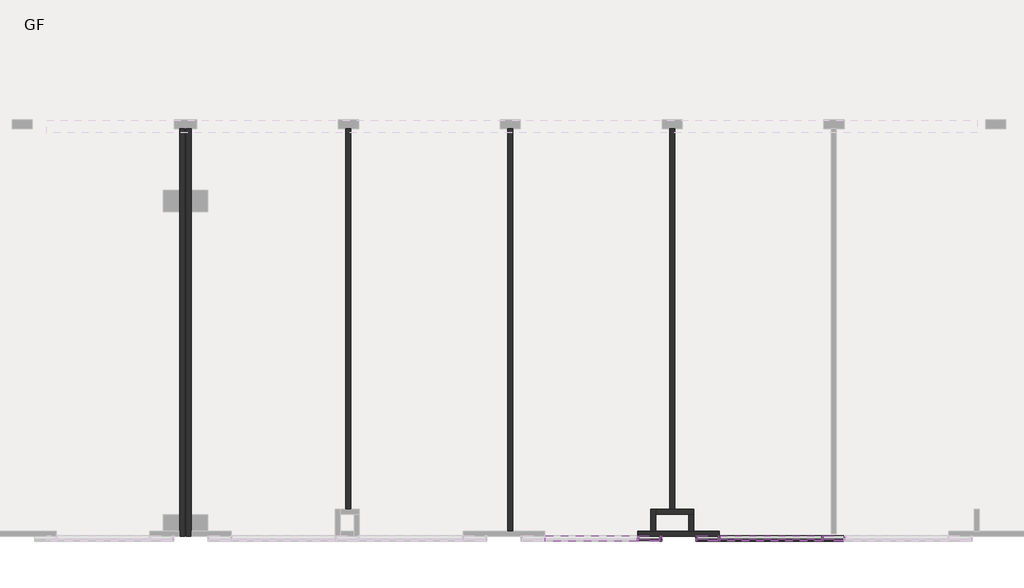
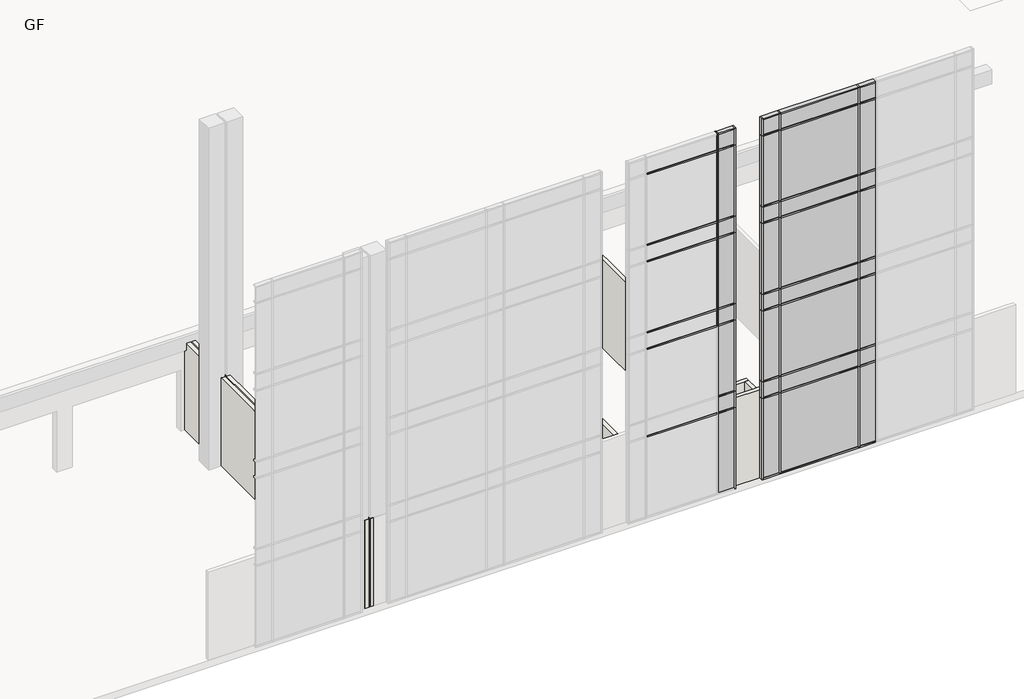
# One storey, part 9 of 23: 78 members, 32 plates, 9 walls.
"""IFC4 building model written with IfcOpenShell, lengths in millimetres."""

from ifc_helpers import new_model, si_unit, frame, origin, place, context, project, spatial, polyline, outline, extrude, faceted_brep, transform, mapped, element, save
from components import rectangular_mullion_50_x_150mm_64d38db8, rectangular_mullion_50_x_150mm_68b3818a, rectangular_mullion_50_x_150mm_f245f1eb, rectangular_mullion_50_x_150mm_5fdcfccd, rectangular_mullion_50_x_150mm_d11e3bb4, rectangular_mullion_50_x_150mm_7d543e93, rectangular_mullion_50_x_150mm_9e0f1e24, rectangular_mullion_50_x_150mm_a95743fc, rectangular_mullion_50_x_150mm_dbb82e9e, rectangular_mullion_50_x_150mm_32aaa733, rectangular_mullion_50_x_150mm_9b8962c0, rectangular_mullion_50_x_150mm_7dcb5a67, rectangular_mullion_50_x_150mm_f1d86669, system_panel_glazed_f9f902e6, system_panel_glazed_6ff5b55b, system_panel_glazed_93ed122c, system_panel_glazed_66c44f38, system_panel_glazed_399b1310, system_panel_glazed_5ec2e07d

model = new_model("IFC4")

# Units and contexts
model_context = context("Model", 3, world=origin())
ifc_project = project(units=[si_unit("LENGTHUNIT", "METRE", prefix="MILLI")], contexts=[model_context])

# Site, building, storey
site = spatial("IfcSite", under=ifc_project)
building = spatial("IfcBuilding", under=site)
storey = spatial("IfcBuildingStorey", under=building, Name="GF", Elevation=900.0)

# Members
placement = place(None, origin())
rectangular_mullion_50_x_150mm_shape = rectangular_mullion_50_x_150mm_64d38db8(model_context)
element("IfcMember", 1, ObjectType="Rectangular Mullion : 50 x 150mm", at=placement, inside=storey, context=model_context, shape_type="MappedRepresentation", body=[
    mapped(rectangular_mullion_50_x_150mm_shape, transform((14592.4134101, -25897.6148653, 15125.0), x_axis=(0.0, 0.0, 1.0), y_axis=(0.0, -1.0, 0.0), z_axis=(1.0, 0.0, 0.0))),
])
element("IfcMember", 2, ObjectType="Rectangular Mullion : 50 x 150mm", at=placement, inside=storey, context=model_context, shape_type="MappedRepresentation", body=[
    mapped(rectangular_mullion_50_x_150mm_shape, transform((16262.4134101, -25897.6148653, 15125.0), x_axis=(0.0, 0.0, 1.0), y_axis=(0.0, -1.0, 0.0), z_axis=(1.0, 0.0, 0.0))),
])
element("IfcMember", 3, ObjectType="Rectangular Mullion : 50 x 150mm", at=placement, inside=storey, context=model_context, shape_type="MappedRepresentation", body=[
    mapped(rectangular_mullion_50_x_150mm_shape, transform((19857.4134101, -25897.6148653, 15125.0), x_axis=(0.0, 0.0, 1.0), y_axis=(0.0, -1.0, 0.0), z_axis=(1.0, 0.0, 0.0))),
])
element("IfcMember", 4, ObjectType="Rectangular Mullion : 50 x 150mm", at=placement, inside=storey, context=model_context, shape_type="MappedRepresentation", body=[
    mapped(rectangular_mullion_50_x_150mm_shape, transform((15662.4134101, -25897.6148653, 900.0), x_axis=(0.0, 0.0, -1.0), y_axis=(0.0, -1.0, 0.0), z_axis=(-1.0, 0.0, 0.0))),
])
element("IfcMember", 5, ObjectType="Rectangular Mullion : 50 x 150mm", at=placement, inside=storey, context=model_context, shape_type="MappedRepresentation", body=[
    mapped(rectangular_mullion_50_x_150mm_shape, transform((19257.4134101, -25897.6148653, 900.0), x_axis=(0.0, 0.0, -1.0), y_axis=(0.0, -1.0, 0.0), z_axis=(-1.0, 0.0, 0.0))),
])
rectangular_mullion_50_x_150mm_2_shape = rectangular_mullion_50_x_150mm_68b3818a(model_context)
element("IfcMember", 6, ObjectType="Rectangular Mullion : 50 x 150mm", at=placement, inside=storey, context=model_context, shape_type="MappedRepresentation", body=[
    mapped(rectangular_mullion_50_x_150mm_2_shape, transform((14592.4134101, -25897.6148653, 4750.0), x_axis=(0.0, 0.0, 1.0), y_axis=(0.0, -1.0, 0.0), z_axis=(1.0, 0.0, 0.0))),
])
element("IfcMember", 7, ObjectType="Rectangular Mullion : 50 x 150mm", at=placement, inside=storey, context=model_context, shape_type="MappedRepresentation", body=[
    mapped(rectangular_mullion_50_x_150mm_2_shape, transform((14592.4134101, -25897.6148653, 4100.0), x_axis=(0.0, 0.0, 1.0), y_axis=(0.0, -1.0, 0.0), z_axis=(1.0, 0.0, 0.0))),
])
element("IfcMember", 8, ObjectType="Rectangular Mullion : 50 x 150mm", at=placement, inside=storey, context=model_context, shape_type="MappedRepresentation", body=[
    mapped(rectangular_mullion_50_x_150mm_2_shape, transform((14592.4134101, -25897.6148653, 8200.0), x_axis=(0.0, 0.0, 1.0), y_axis=(0.0, -1.0, 0.0), z_axis=(1.0, 0.0, 0.0))),
])
element("IfcMember", 9, ObjectType="Rectangular Mullion : 50 x 150mm", at=placement, inside=storey, context=model_context, shape_type="MappedRepresentation", body=[
    mapped(rectangular_mullion_50_x_150mm_2_shape, transform((14592.4134101, -25897.6148653, 11650.0), x_axis=(0.0, 0.0, 1.0), y_axis=(0.0, -1.0, 0.0), z_axis=(1.0, 0.0, 0.0))),
])
element("IfcMember", 10, ObjectType="Rectangular Mullion : 50 x 150mm", at=placement, inside=storey, context=model_context, shape_type="MappedRepresentation", body=[
    mapped(rectangular_mullion_50_x_150mm_2_shape, transform((14592.4134101, -25897.6148653, 7550.0), x_axis=(0.0, 0.0, 1.0), y_axis=(0.0, -1.0, 0.0), z_axis=(1.0, 0.0, 0.0))),
])
element("IfcMember", 11, ObjectType="Rectangular Mullion : 50 x 150mm", at=placement, inside=storey, context=model_context, shape_type="MappedRepresentation", body=[
    mapped(rectangular_mullion_50_x_150mm_2_shape, transform((14592.4134101, -25897.6148653, 11000.0), x_axis=(0.0, 0.0, 1.0), y_axis=(0.0, -1.0, 0.0), z_axis=(1.0, 0.0, 0.0))),
])
element("IfcMember", 12, ObjectType="Rectangular Mullion : 50 x 150mm", at=placement, inside=storey, context=model_context, shape_type="MappedRepresentation", body=[
    mapped(rectangular_mullion_50_x_150mm_2_shape, transform((14592.4134101, -25897.6148653, 14450.0), x_axis=(0.0, 0.0, 1.0), y_axis=(0.0, -1.0, 0.0), z_axis=(1.0, 0.0, 0.0))),
])
element("IfcMember", 13, ObjectType="Rectangular Mullion : 50 x 150mm", at=placement, inside=storey, context=model_context, shape_type="MappedRepresentation", body=[
    mapped(rectangular_mullion_50_x_150mm_2_shape, transform((16262.4134101, -25897.6148653, 4750.0), x_axis=(0.0, 0.0, 1.0), y_axis=(0.0, -1.0, 0.0), z_axis=(1.0, 0.0, 0.0))),
])
element("IfcMember", 14, ObjectType="Rectangular Mullion : 50 x 150mm", at=placement, inside=storey, context=model_context, shape_type="MappedRepresentation", body=[
    mapped(rectangular_mullion_50_x_150mm_2_shape, transform((19857.4134101, -25897.6148653, 4750.0), x_axis=(0.0, 0.0, 1.0), y_axis=(0.0, -1.0, 0.0), z_axis=(1.0, 0.0, 0.0))),
])
element("IfcMember", 15, ObjectType="Rectangular Mullion : 50 x 150mm", at=placement, inside=storey, context=model_context, shape_type="MappedRepresentation", body=[
    mapped(rectangular_mullion_50_x_150mm_2_shape, transform((16262.4134101, -25897.6148653, 4100.0), x_axis=(0.0, 0.0, 1.0), y_axis=(0.0, -1.0, 0.0), z_axis=(1.0, 0.0, 0.0))),
])
element("IfcMember", 16, ObjectType="Rectangular Mullion : 50 x 150mm", at=placement, inside=storey, context=model_context, shape_type="MappedRepresentation", body=[
    mapped(rectangular_mullion_50_x_150mm_2_shape, transform((19857.4134101, -25897.6148653, 4100.0), x_axis=(0.0, 0.0, 1.0), y_axis=(0.0, -1.0, 0.0), z_axis=(1.0, 0.0, 0.0))),
])
element("IfcMember", 17, ObjectType="Rectangular Mullion : 50 x 150mm", at=placement, inside=storey, context=model_context, shape_type="MappedRepresentation", body=[
    mapped(rectangular_mullion_50_x_150mm_2_shape, transform((16262.4134101, -25897.6148653, 8200.0), x_axis=(0.0, 0.0, 1.0), y_axis=(0.0, -1.0, 0.0), z_axis=(1.0, 0.0, 0.0))),
])
element("IfcMember", 18, ObjectType="Rectangular Mullion : 50 x 150mm", at=placement, inside=storey, context=model_context, shape_type="MappedRepresentation", body=[
    mapped(rectangular_mullion_50_x_150mm_2_shape, transform((19857.4134101, -25897.6148653, 8200.0), x_axis=(0.0, 0.0, 1.0), y_axis=(0.0, -1.0, 0.0), z_axis=(1.0, 0.0, 0.0))),
])
element("IfcMember", 19, ObjectType="Rectangular Mullion : 50 x 150mm", at=placement, inside=storey, context=model_context, shape_type="MappedRepresentation", body=[
    mapped(rectangular_mullion_50_x_150mm_2_shape, transform((16262.4134101, -25897.6148653, 11650.0), x_axis=(0.0, 0.0, 1.0), y_axis=(0.0, -1.0, 0.0), z_axis=(1.0, 0.0, 0.0))),
])
element("IfcMember", 20, ObjectType="Rectangular Mullion : 50 x 150mm", at=placement, inside=storey, context=model_context, shape_type="MappedRepresentation", body=[
    mapped(rectangular_mullion_50_x_150mm_2_shape, transform((19857.4134101, -25897.6148653, 11650.0), x_axis=(0.0, 0.0, 1.0), y_axis=(0.0, -1.0, 0.0), z_axis=(1.0, 0.0, 0.0))),
])
element("IfcMember", 21, ObjectType="Rectangular Mullion : 50 x 150mm", at=placement, inside=storey, context=model_context, shape_type="MappedRepresentation", body=[
    mapped(rectangular_mullion_50_x_150mm_2_shape, transform((16262.4134101, -25897.6148653, 7550.0), x_axis=(0.0, 0.0, 1.0), y_axis=(0.0, -1.0, 0.0), z_axis=(1.0, 0.0, 0.0))),
])
element("IfcMember", 22, ObjectType="Rectangular Mullion : 50 x 150mm", at=placement, inside=storey, context=model_context, shape_type="MappedRepresentation", body=[
    mapped(rectangular_mullion_50_x_150mm_2_shape, transform((19857.4134101, -25897.6148653, 7550.0), x_axis=(0.0, 0.0, 1.0), y_axis=(0.0, -1.0, 0.0), z_axis=(1.0, 0.0, 0.0))),
])
element("IfcMember", 23, ObjectType="Rectangular Mullion : 50 x 150mm", at=placement, inside=storey, context=model_context, shape_type="MappedRepresentation", body=[
    mapped(rectangular_mullion_50_x_150mm_2_shape, transform((16262.4134101, -25897.6148653, 11000.0), x_axis=(0.0, 0.0, 1.0), y_axis=(0.0, -1.0, 0.0), z_axis=(1.0, 0.0, 0.0))),
])
element("IfcMember", 24, ObjectType="Rectangular Mullion : 50 x 150mm", at=placement, inside=storey, context=model_context, shape_type="MappedRepresentation", body=[
    mapped(rectangular_mullion_50_x_150mm_2_shape, transform((19857.4134101, -25897.6148653, 11000.0), x_axis=(0.0, 0.0, 1.0), y_axis=(0.0, -1.0, 0.0), z_axis=(1.0, 0.0, 0.0))),
])
element("IfcMember", 25, ObjectType="Rectangular Mullion : 50 x 150mm", at=placement, inside=storey, context=model_context, shape_type="MappedRepresentation", body=[
    mapped(rectangular_mullion_50_x_150mm_2_shape, transform((16262.4134101, -25897.6148653, 14450.0), x_axis=(0.0, 0.0, 1.0), y_axis=(0.0, -1.0, 0.0), z_axis=(1.0, 0.0, 0.0))),
])
element("IfcMember", 26, ObjectType="Rectangular Mullion : 50 x 150mm", at=placement, inside=storey, context=model_context, shape_type="MappedRepresentation", body=[
    mapped(rectangular_mullion_50_x_150mm_2_shape, transform((19857.4134101, -25897.6148653, 14450.0), x_axis=(0.0, 0.0, 1.0), y_axis=(0.0, -1.0, 0.0), z_axis=(1.0, 0.0, 0.0))),
])
rectangular_mullion_50_x_150mm_3_shape = rectangular_mullion_50_x_150mm_f245f1eb(model_context)
element("IfcMember", 27, ObjectType="Rectangular Mullion : 50 x 150mm", at=placement, inside=storey, context=model_context, shape_type="MappedRepresentation", body=[
    mapped(rectangular_mullion_50_x_150mm_3_shape, transform((16287.4134101, -25897.6148653, 900.0), x_axis=(1.0, 0.0, 0.0), y_axis=(0.0, -1.0, 0.0), z_axis=(0.0, 0.0, -1.0))),
])
element("IfcMember", 28, ObjectType="Rectangular Mullion : 50 x 150mm", at=placement, inside=storey, context=model_context, shape_type="MappedRepresentation", body=[
    mapped(rectangular_mullion_50_x_150mm_3_shape, transform((19232.4134101, -25897.6148653, 900.0), x_axis=(1.0, 0.0, 0.0), y_axis=(0.0, -1.0, 0.0), z_axis=(0.0, 0.0, -1.0))),
])
rectangular_mullion_50_x_150mm_4_shape = rectangular_mullion_50_x_150mm_5fdcfccd(model_context)
element("IfcMember", 29, ObjectType="Rectangular Mullion : 50 x 150mm", at=placement, inside=storey, context=model_context, shape_type="MappedRepresentation", body=[
    mapped(rectangular_mullion_50_x_150mm_4_shape, transform((13942.4134101, -25897.6148653, 4100.0), x_axis=(0.0, 0.0, 1.0), y_axis=(0.0, -1.0, 0.0), z_axis=(1.0, 0.0, 0.0))),
])
element("IfcMember", 30, ObjectType="Rectangular Mullion : 50 x 150mm", at=placement, inside=storey, context=model_context, shape_type="MappedRepresentation", body=[
    mapped(rectangular_mullion_50_x_150mm_4_shape, transform((13942.4134101, -25897.6148653, 8200.0), x_axis=(0.0, 0.0, 1.0), y_axis=(0.0, -1.0, 0.0), z_axis=(1.0, 0.0, 0.0))),
])
element("IfcMember", 31, ObjectType="Rectangular Mullion : 50 x 150mm", at=placement, inside=storey, context=model_context, shape_type="MappedRepresentation", body=[
    mapped(rectangular_mullion_50_x_150mm_4_shape, transform((13942.4134101, -25897.6148653, 11650.0), x_axis=(0.0, 0.0, 1.0), y_axis=(0.0, -1.0, 0.0), z_axis=(1.0, 0.0, 0.0))),
])
element("IfcMember", 32, ObjectType="Rectangular Mullion : 50 x 150mm", at=placement, inside=storey, context=model_context, shape_type="MappedRepresentation", body=[
    mapped(rectangular_mullion_50_x_150mm_4_shape, transform((13942.4134101, -25897.6148653, 7550.0), x_axis=(0.0, 0.0, 1.0), y_axis=(0.0, -1.0, 0.0), z_axis=(1.0, 0.0, 0.0))),
])
element("IfcMember", 33, ObjectType="Rectangular Mullion : 50 x 150mm", at=placement, inside=storey, context=model_context, shape_type="MappedRepresentation", body=[
    mapped(rectangular_mullion_50_x_150mm_4_shape, transform((13942.4134101, -25897.6148653, 11000.0), x_axis=(0.0, 0.0, 1.0), y_axis=(0.0, -1.0, 0.0), z_axis=(1.0, 0.0, 0.0))),
])
element("IfcMember", 34, ObjectType="Rectangular Mullion : 50 x 150mm", at=placement, inside=storey, context=model_context, shape_type="MappedRepresentation", body=[
    mapped(rectangular_mullion_50_x_150mm_4_shape, transform((13942.4134101, -25897.6148653, 14450.0), x_axis=(0.0, 0.0, 1.0), y_axis=(0.0, -1.0, 0.0), z_axis=(1.0, 0.0, 0.0))),
])
rectangular_mullion_50_x_150mm_5_shape = rectangular_mullion_50_x_150mm_d11e3bb4(model_context)
element("IfcMember", 35, ObjectType="Rectangular Mullion : 50 x 150mm", at=placement, inside=storey, context=model_context, shape_type="MappedRepresentation", body=[
    mapped(rectangular_mullion_50_x_150mm_5_shape, transform((13967.4134101, -25897.6148653, 8200.0), x_axis=(1.0, 0.0, 0.0), y_axis=(0.0, -1.0, 0.0), z_axis=(0.0, 0.0, -1.0))),
])
element("IfcMember", 36, ObjectType="Rectangular Mullion : 50 x 150mm", at=placement, inside=storey, context=model_context, shape_type="MappedRepresentation", body=[
    mapped(rectangular_mullion_50_x_150mm_5_shape, transform((13967.4134101, -25897.6148653, 11650.0), x_axis=(1.0, 0.0, 0.0), y_axis=(0.0, -1.0, 0.0), z_axis=(0.0, 0.0, -1.0))),
])
element("IfcMember", 37, ObjectType="Rectangular Mullion : 50 x 150mm", at=placement, inside=storey, context=model_context, shape_type="MappedRepresentation", body=[
    mapped(rectangular_mullion_50_x_150mm_5_shape, transform((16287.4134101, -25897.6148653, 4750.0), x_axis=(1.0, 0.0, 0.0), y_axis=(0.0, -1.0, 0.0), z_axis=(0.0, 0.0, -1.0))),
])
element("IfcMember", 38, ObjectType="Rectangular Mullion : 50 x 150mm", at=placement, inside=storey, context=model_context, shape_type="MappedRepresentation", body=[
    mapped(rectangular_mullion_50_x_150mm_5_shape, transform((19232.4134101, -25897.6148653, 4750.0), x_axis=(1.0, 0.0, 0.0), y_axis=(0.0, -1.0, 0.0), z_axis=(0.0, 0.0, -1.0))),
])
element("IfcMember", 39, ObjectType="Rectangular Mullion : 50 x 150mm", at=placement, inside=storey, context=model_context, shape_type="MappedRepresentation", body=[
    mapped(rectangular_mullion_50_x_150mm_5_shape, transform((16287.4134101, -25897.6148653, 8200.0), x_axis=(1.0, 0.0, 0.0), y_axis=(0.0, -1.0, 0.0), z_axis=(0.0, 0.0, -1.0))),
])
element("IfcMember", 40, ObjectType="Rectangular Mullion : 50 x 150mm", at=placement, inside=storey, context=model_context, shape_type="MappedRepresentation", body=[
    mapped(rectangular_mullion_50_x_150mm_5_shape, transform((19232.4134101, -25897.6148653, 8200.0), x_axis=(1.0, 0.0, 0.0), y_axis=(0.0, -1.0, 0.0), z_axis=(0.0, 0.0, -1.0))),
])
element("IfcMember", 41, ObjectType="Rectangular Mullion : 50 x 150mm", at=placement, inside=storey, context=model_context, shape_type="MappedRepresentation", body=[
    mapped(rectangular_mullion_50_x_150mm_5_shape, transform((16287.4134101, -25897.6148653, 11650.0), x_axis=(1.0, 0.0, 0.0), y_axis=(0.0, -1.0, 0.0), z_axis=(0.0, 0.0, -1.0))),
])
element("IfcMember", 42, ObjectType="Rectangular Mullion : 50 x 150mm", at=placement, inside=storey, context=model_context, shape_type="MappedRepresentation", body=[
    mapped(rectangular_mullion_50_x_150mm_5_shape, transform((19232.4134101, -25897.6148653, 11650.0), x_axis=(1.0, 0.0, 0.0), y_axis=(0.0, -1.0, 0.0), z_axis=(0.0, 0.0, -1.0))),
])
rectangular_mullion_50_x_150mm_6_shape = rectangular_mullion_50_x_150mm_7d543e93(model_context)
element("IfcMember", 43, ObjectType="Rectangular Mullion : 50 x 150mm", at=placement, inside=storey, context=model_context, shape_type="MappedRepresentation", body=[
    mapped(rectangular_mullion_50_x_150mm_6_shape, transform((13967.4134101, -25897.6148653, 7550.0), x_axis=(1.0, 0.0, 0.0), y_axis=(0.0, -1.0, 0.0), z_axis=(0.0, 0.0, -1.0))),
])
element("IfcMember", 44, ObjectType="Rectangular Mullion : 50 x 150mm", at=placement, inside=storey, context=model_context, shape_type="MappedRepresentation", body=[
    mapped(rectangular_mullion_50_x_150mm_6_shape, transform((13967.4134101, -25897.6148653, 11000.0), x_axis=(1.0, 0.0, 0.0), y_axis=(0.0, -1.0, 0.0), z_axis=(0.0, 0.0, -1.0))),
])
element("IfcMember", 45, ObjectType="Rectangular Mullion : 50 x 150mm", at=placement, inside=storey, context=model_context, shape_type="MappedRepresentation", body=[
    mapped(rectangular_mullion_50_x_150mm_6_shape, transform((16287.4134101, -25897.6148653, 4100.0), x_axis=(1.0, 0.0, 0.0), y_axis=(0.0, -1.0, 0.0), z_axis=(0.0, 0.0, -1.0))),
])
element("IfcMember", 46, ObjectType="Rectangular Mullion : 50 x 150mm", at=placement, inside=storey, context=model_context, shape_type="MappedRepresentation", body=[
    mapped(rectangular_mullion_50_x_150mm_6_shape, transform((19232.4134101, -25897.6148653, 4100.0), x_axis=(1.0, 0.0, 0.0), y_axis=(0.0, -1.0, 0.0), z_axis=(0.0, 0.0, -1.0))),
])
element("IfcMember", 47, ObjectType="Rectangular Mullion : 50 x 150mm", at=placement, inside=storey, context=model_context, shape_type="MappedRepresentation", body=[
    mapped(rectangular_mullion_50_x_150mm_6_shape, transform((16287.4134101, -25897.6148653, 7550.0), x_axis=(1.0, 0.0, 0.0), y_axis=(0.0, -1.0, 0.0), z_axis=(0.0, 0.0, -1.0))),
])
element("IfcMember", 48, ObjectType="Rectangular Mullion : 50 x 150mm", at=placement, inside=storey, context=model_context, shape_type="MappedRepresentation", body=[
    mapped(rectangular_mullion_50_x_150mm_6_shape, transform((19232.4134101, -25897.6148653, 7550.0), x_axis=(1.0, 0.0, 0.0), y_axis=(0.0, -1.0, 0.0), z_axis=(0.0, 0.0, -1.0))),
])
element("IfcMember", 49, ObjectType="Rectangular Mullion : 50 x 150mm", at=placement, inside=storey, context=model_context, shape_type="MappedRepresentation", body=[
    mapped(rectangular_mullion_50_x_150mm_6_shape, transform((16287.4134101, -25897.6148653, 11000.0), x_axis=(1.0, 0.0, 0.0), y_axis=(0.0, -1.0, 0.0), z_axis=(0.0, 0.0, -1.0))),
])
element("IfcMember", 50, ObjectType="Rectangular Mullion : 50 x 150mm", at=placement, inside=storey, context=model_context, shape_type="MappedRepresentation", body=[
    mapped(rectangular_mullion_50_x_150mm_6_shape, transform((19232.4134101, -25897.6148653, 11000.0), x_axis=(1.0, 0.0, 0.0), y_axis=(0.0, -1.0, 0.0), z_axis=(0.0, 0.0, -1.0))),
])
rectangular_mullion_50_x_150mm_7_shape = rectangular_mullion_50_x_150mm_9e0f1e24(model_context)
element("IfcMember", 51, ObjectType="Rectangular Mullion : 50 x 150mm", at=placement, inside=storey, context=model_context, shape_type="MappedRepresentation", body=[
    mapped(rectangular_mullion_50_x_150mm_7_shape, transform((13967.4134101, -25897.6148653, 14450.0), x_axis=(1.0, 0.0, 0.0), y_axis=(0.0, -1.0, 0.0), z_axis=(0.0, 0.0, -1.0))),
])
element("IfcMember", 52, ObjectType="Rectangular Mullion : 50 x 150mm", at=placement, inside=storey, context=model_context, shape_type="MappedRepresentation", body=[
    mapped(rectangular_mullion_50_x_150mm_7_shape, transform((16287.4134101, -25897.6148653, 14450.0), x_axis=(1.0, 0.0, 0.0), y_axis=(0.0, -1.0, 0.0), z_axis=(0.0, 0.0, -1.0))),
])
element("IfcMember", 53, ObjectType="Rectangular Mullion : 50 x 150mm", at=placement, inside=storey, context=model_context, shape_type="MappedRepresentation", body=[
    mapped(rectangular_mullion_50_x_150mm_7_shape, transform((19232.4134101, -25897.6148653, 14450.0), x_axis=(1.0, 0.0, 0.0), y_axis=(0.0, -1.0, 0.0), z_axis=(0.0, 0.0, -1.0))),
])
rectangular_mullion_50_x_150mm_8_shape = rectangular_mullion_50_x_150mm_a95743fc(model_context)
element("IfcMember", 54, ObjectType="Rectangular Mullion : 50 x 150mm", at=placement, inside=storey, context=model_context, shape_type="MappedRepresentation", body=[
    mapped(rectangular_mullion_50_x_150mm_8_shape, transform((14642.4134101, -25897.6148653, 900.0), x_axis=(1.0, 0.0, 0.0), y_axis=(0.0, -1.0, 0.0), z_axis=(0.0, 0.0, -1.0))),
])
rectangular_mullion_50_x_150mm_9_shape = rectangular_mullion_50_x_150mm_dbb82e9e(model_context)
element("IfcMember", 55, ObjectType="Rectangular Mullion : 50 x 150mm", at=placement, inside=storey, context=model_context, shape_type="MappedRepresentation", body=[
    mapped(rectangular_mullion_50_x_150mm_9_shape, transform((15612.4134101, -25897.6148653, 15125.0), x_axis=(-1.0, 0.0, 0.0), y_axis=(0.0, -1.0, 0.0), z_axis=(0.0, 0.0, 1.0))),
])
rectangular_mullion_50_x_150mm_10_shape = rectangular_mullion_50_x_150mm_32aaa733(model_context)
element("IfcMember", 56, ObjectType="Rectangular Mullion : 50 x 150mm", at=placement, inside=storey, context=model_context, shape_type="MappedRepresentation", body=[
    mapped(rectangular_mullion_50_x_150mm_10_shape, transform((14642.4134101, -25897.6148653, 4750.0), x_axis=(1.0, 0.0, 0.0), y_axis=(0.0, -1.0, 0.0), z_axis=(0.0, 0.0, -1.0))),
])
element("IfcMember", 57, ObjectType="Rectangular Mullion : 50 x 150mm", at=placement, inside=storey, context=model_context, shape_type="MappedRepresentation", body=[
    mapped(rectangular_mullion_50_x_150mm_10_shape, transform((14642.4134101, -25897.6148653, 8200.0), x_axis=(1.0, 0.0, 0.0), y_axis=(0.0, -1.0, 0.0), z_axis=(0.0, 0.0, -1.0))),
])
element("IfcMember", 58, ObjectType="Rectangular Mullion : 50 x 150mm", at=placement, inside=storey, context=model_context, shape_type="MappedRepresentation", body=[
    mapped(rectangular_mullion_50_x_150mm_10_shape, transform((14642.4134101, -25897.6148653, 11650.0), x_axis=(1.0, 0.0, 0.0), y_axis=(0.0, -1.0, 0.0), z_axis=(0.0, 0.0, -1.0))),
])
rectangular_mullion_50_x_150mm_11_shape = rectangular_mullion_50_x_150mm_9b8962c0(model_context)
element("IfcMember", 59, ObjectType="Rectangular Mullion : 50 x 150mm", at=placement, inside=storey, context=model_context, shape_type="MappedRepresentation", body=[
    mapped(rectangular_mullion_50_x_150mm_11_shape, transform((15612.4134101, -25897.6148653, 4750.0), x_axis=(-1.0, 0.0, 0.0), y_axis=(0.0, -1.0, 0.0), z_axis=(0.0, 0.0, 1.0))),
])
element("IfcMember", 60, ObjectType="Rectangular Mullion : 50 x 150mm", at=placement, inside=storey, context=model_context, shape_type="MappedRepresentation", body=[
    mapped(rectangular_mullion_50_x_150mm_11_shape, transform((15612.4134101, -25897.6148653, 8200.0), x_axis=(-1.0, 0.0, 0.0), y_axis=(0.0, -1.0, 0.0), z_axis=(0.0, 0.0, 1.0))),
])
element("IfcMember", 61, ObjectType="Rectangular Mullion : 50 x 150mm", at=placement, inside=storey, context=model_context, shape_type="MappedRepresentation", body=[
    mapped(rectangular_mullion_50_x_150mm_11_shape, transform((15612.4134101, -25897.6148653, 11650.0), x_axis=(-1.0, 0.0, 0.0), y_axis=(0.0, -1.0, 0.0), z_axis=(0.0, 0.0, 1.0))),
])
element("IfcMember", 62, ObjectType="Rectangular Mullion : 50 x 150mm", at=placement, inside=storey, context=model_context, shape_type="MappedRepresentation", body=[
    mapped(rectangular_mullion_50_x_150mm_11_shape, transform((14642.4134101, -25897.6148653, 4100.0), x_axis=(1.0, 0.0, 0.0), y_axis=(0.0, -1.0, 0.0), z_axis=(0.0, 0.0, -1.0))),
])
element("IfcMember", 63, ObjectType="Rectangular Mullion : 50 x 150mm", at=placement, inside=storey, context=model_context, shape_type="MappedRepresentation", body=[
    mapped(rectangular_mullion_50_x_150mm_11_shape, transform((14642.4134101, -25897.6148653, 7550.0), x_axis=(1.0, 0.0, 0.0), y_axis=(0.0, -1.0, 0.0), z_axis=(0.0, 0.0, -1.0))),
])
element("IfcMember", 64, ObjectType="Rectangular Mullion : 50 x 150mm", at=placement, inside=storey, context=model_context, shape_type="MappedRepresentation", body=[
    mapped(rectangular_mullion_50_x_150mm_11_shape, transform((14642.4134101, -25897.6148653, 11000.0), x_axis=(1.0, 0.0, 0.0), y_axis=(0.0, -1.0, 0.0), z_axis=(0.0, 0.0, -1.0))),
])
element("IfcMember", 65, ObjectType="Rectangular Mullion : 50 x 150mm", at=placement, inside=storey, context=model_context, shape_type="MappedRepresentation", body=[
    mapped(rectangular_mullion_50_x_150mm_8_shape, transform((15612.4134101, -25897.6148653, 4100.0), x_axis=(-1.0, 0.0, 0.0), y_axis=(0.0, -1.0, 0.0), z_axis=(0.0, 0.0, 1.0))),
])
element("IfcMember", 66, ObjectType="Rectangular Mullion : 50 x 150mm", at=placement, inside=storey, context=model_context, shape_type="MappedRepresentation", body=[
    mapped(rectangular_mullion_50_x_150mm_10_shape, transform((15612.4134101, -25897.6148653, 7550.0), x_axis=(-1.0, 0.0, 0.0), y_axis=(0.0, -1.0, 0.0), z_axis=(0.0, 0.0, 1.0))),
])
element("IfcMember", 67, ObjectType="Rectangular Mullion : 50 x 150mm", at=placement, inside=storey, context=model_context, shape_type="MappedRepresentation", body=[
    mapped(rectangular_mullion_50_x_150mm_10_shape, transform((15612.4134101, -25897.6148653, 11000.0), x_axis=(-1.0, 0.0, 0.0), y_axis=(0.0, -1.0, 0.0), z_axis=(0.0, 0.0, 1.0))),
])
element("IfcMember", 68, ObjectType="Rectangular Mullion : 50 x 150mm", at=placement, inside=storey, context=model_context, shape_type="MappedRepresentation", body=[
    mapped(rectangular_mullion_50_x_150mm_10_shape, transform((15612.4134101, -25897.6148653, 14450.0), x_axis=(-1.0, 0.0, 0.0), y_axis=(0.0, -1.0, 0.0), z_axis=(0.0, 0.0, 1.0))),
])
element("IfcMember", 69, ObjectType="Rectangular Mullion : 50 x 150mm", at=placement, inside=storey, context=model_context, shape_type="MappedRepresentation", body=[
    mapped(rectangular_mullion_50_x_150mm_9_shape, transform((14642.4134101, -25897.6148653, 14450.0), x_axis=(1.0, 0.0, 0.0), y_axis=(0.0, -1.0, 0.0), z_axis=(0.0, 0.0, -1.0))),
])
rectangular_mullion_50_x_150mm_12_shape = rectangular_mullion_50_x_150mm_7dcb5a67(model_context)
element("IfcMember", 70, ObjectType="Rectangular Mullion : 50 x 150mm", at=placement, inside=storey, context=model_context, shape_type="MappedRepresentation", body=[
    mapped(rectangular_mullion_50_x_150mm_12_shape, transform((16312.4134101, -25897.6148653, 900.0), x_axis=(0.0, 0.0, -1.0), y_axis=(0.0, -1.0, 0.0), z_axis=(-1.0, 0.0, 0.0))),
])
element("IfcMember", 71, ObjectType="Rectangular Mullion : 50 x 150mm", at=placement, inside=storey, context=model_context, shape_type="MappedRepresentation", body=[
    mapped(rectangular_mullion_50_x_150mm_12_shape, transform((19207.4134101, -25897.6148653, 15125.0), x_axis=(0.0, 0.0, 1.0), y_axis=(0.0, -1.0, 0.0), z_axis=(1.0, 0.0, 0.0))),
])
rectangular_mullion_50_x_150mm_13_shape = rectangular_mullion_50_x_150mm_f1d86669(model_context)
element("IfcMember", 72, ObjectType="Rectangular Mullion : 50 x 150mm", at=placement, inside=storey, context=model_context, shape_type="MappedRepresentation", body=[
    mapped(rectangular_mullion_50_x_150mm_13_shape, transform((19207.4134101, -25897.6148653, 4750.0), x_axis=(0.0, 0.0, 1.0), y_axis=(0.0, -1.0, 0.0), z_axis=(1.0, 0.0, 0.0))),
])
element("IfcMember", 73, ObjectType="Rectangular Mullion : 50 x 150mm", at=placement, inside=storey, context=model_context, shape_type="MappedRepresentation", body=[
    mapped(rectangular_mullion_50_x_150mm_13_shape, transform((19207.4134101, -25897.6148653, 4100.0), x_axis=(0.0, 0.0, 1.0), y_axis=(0.0, -1.0, 0.0), z_axis=(1.0, 0.0, 0.0))),
])
element("IfcMember", 74, ObjectType="Rectangular Mullion : 50 x 150mm", at=placement, inside=storey, context=model_context, shape_type="MappedRepresentation", body=[
    mapped(rectangular_mullion_50_x_150mm_13_shape, transform((19207.4134101, -25897.6148653, 8200.0), x_axis=(0.0, 0.0, 1.0), y_axis=(0.0, -1.0, 0.0), z_axis=(1.0, 0.0, 0.0))),
])
element("IfcMember", 75, ObjectType="Rectangular Mullion : 50 x 150mm", at=placement, inside=storey, context=model_context, shape_type="MappedRepresentation", body=[
    mapped(rectangular_mullion_50_x_150mm_13_shape, transform((19207.4134101, -25897.6148653, 11650.0), x_axis=(0.0, 0.0, 1.0), y_axis=(0.0, -1.0, 0.0), z_axis=(1.0, 0.0, 0.0))),
])
element("IfcMember", 76, ObjectType="Rectangular Mullion : 50 x 150mm", at=placement, inside=storey, context=model_context, shape_type="MappedRepresentation", body=[
    mapped(rectangular_mullion_50_x_150mm_13_shape, transform((19207.4134101, -25897.6148653, 7550.0), x_axis=(0.0, 0.0, 1.0), y_axis=(0.0, -1.0, 0.0), z_axis=(1.0, 0.0, 0.0))),
])
element("IfcMember", 77, ObjectType="Rectangular Mullion : 50 x 150mm", at=placement, inside=storey, context=model_context, shape_type="MappedRepresentation", body=[
    mapped(rectangular_mullion_50_x_150mm_13_shape, transform((19207.4134101, -25897.6148653, 11000.0), x_axis=(0.0, 0.0, 1.0), y_axis=(0.0, -1.0, 0.0), z_axis=(1.0, 0.0, 0.0))),
])
element("IfcMember", 78, ObjectType="Rectangular Mullion : 50 x 150mm", at=placement, inside=storey, context=model_context, shape_type="MappedRepresentation", body=[
    mapped(rectangular_mullion_50_x_150mm_13_shape, transform((19207.4134101, -25897.6148653, 14450.0), x_axis=(0.0, 0.0, 1.0), y_axis=(0.0, -1.0, 0.0), z_axis=(1.0, 0.0, 0.0))),
])

# Plates
system_panel_glazed_shape = system_panel_glazed_f9f902e6(model_context)
element("IfcPlate", 79, ObjectType="System Panel : Glazed", at=placement, inside=storey, context=model_context, shape_type="MappedRepresentation", body=[
    mapped(system_panel_glazed_shape, transform((14292.4134101, -25897.6148653, 950.0), x_axis=(1.0, 0.0, 0.0), y_axis=(0.0, 1.0, 0.0), z_axis=(0.0, 0.0, 1.0))),
])
element("IfcPlate", 80, ObjectType="System Panel : Glazed", at=placement, inside=storey, context=model_context, shape_type="MappedRepresentation", body=[
    mapped(system_panel_glazed_shape, transform((15962.4134101, -25897.6148653, 950.0), x_axis=(1.0, 0.0, 0.0), y_axis=(0.0, 1.0, 0.0), z_axis=(0.0, 0.0, 1.0))),
])
element("IfcPlate", 81, ObjectType="System Panel : Glazed", at=placement, inside=storey, context=model_context, shape_type="MappedRepresentation", body=[
    mapped(system_panel_glazed_shape, transform((19557.4134101, -25897.6148653, 950.0), x_axis=(1.0, 0.0, 0.0), y_axis=(0.0, 1.0, 0.0), z_axis=(0.0, 0.0, 1.0))),
])
system_panel_glazed_2_shape = system_panel_glazed_6ff5b55b(model_context)
element("IfcPlate", 82, ObjectType="System Panel : Glazed", at=placement, inside=storey, context=model_context, shape_type="MappedRepresentation", body=[
    mapped(system_panel_glazed_2_shape, transform((14292.4134101, -25897.6148653, 4775.0), x_axis=(1.0, 0.0, 0.0), y_axis=(0.0, 1.0, 0.0), z_axis=(0.0, 0.0, 1.0))),
])
element("IfcPlate", 83, ObjectType="System Panel : Glazed", at=placement, inside=storey, context=model_context, shape_type="MappedRepresentation", body=[
    mapped(system_panel_glazed_2_shape, transform((14292.4134101, -25897.6148653, 8225.0), x_axis=(1.0, 0.0, 0.0), y_axis=(0.0, 1.0, 0.0), z_axis=(0.0, 0.0, 1.0))),
])
element("IfcPlate", 84, ObjectType="System Panel : Glazed", at=placement, inside=storey, context=model_context, shape_type="MappedRepresentation", body=[
    mapped(system_panel_glazed_2_shape, transform((14292.4134101, -25897.6148653, 11675.0), x_axis=(1.0, 0.0, 0.0), y_axis=(0.0, 1.0, 0.0), z_axis=(0.0, 0.0, 1.0))),
])
element("IfcPlate", 85, ObjectType="System Panel : Glazed", at=placement, inside=storey, context=model_context, shape_type="MappedRepresentation", body=[
    mapped(system_panel_glazed_2_shape, transform((15962.4134101, -25897.6148653, 4775.0), x_axis=(1.0, 0.0, 0.0), y_axis=(0.0, 1.0, 0.0), z_axis=(0.0, 0.0, 1.0))),
])
element("IfcPlate", 86, ObjectType="System Panel : Glazed", at=placement, inside=storey, context=model_context, shape_type="MappedRepresentation", body=[
    mapped(system_panel_glazed_2_shape, transform((19557.4134101, -25897.6148653, 4775.0), x_axis=(1.0, 0.0, 0.0), y_axis=(0.0, 1.0, 0.0), z_axis=(0.0, 0.0, 1.0))),
])
element("IfcPlate", 87, ObjectType="System Panel : Glazed", at=placement, inside=storey, context=model_context, shape_type="MappedRepresentation", body=[
    mapped(system_panel_glazed_2_shape, transform((15962.4134101, -25897.6148653, 8225.0), x_axis=(1.0, 0.0, 0.0), y_axis=(0.0, 1.0, 0.0), z_axis=(0.0, 0.0, 1.0))),
])
element("IfcPlate", 88, ObjectType="System Panel : Glazed", at=placement, inside=storey, context=model_context, shape_type="MappedRepresentation", body=[
    mapped(system_panel_glazed_2_shape, transform((19557.4134101, -25897.6148653, 8225.0), x_axis=(1.0, 0.0, 0.0), y_axis=(0.0, 1.0, 0.0), z_axis=(0.0, 0.0, 1.0))),
])
element("IfcPlate", 89, ObjectType="System Panel : Glazed", at=placement, inside=storey, context=model_context, shape_type="MappedRepresentation", body=[
    mapped(system_panel_glazed_2_shape, transform((15962.4134101, -25897.6148653, 11675.0), x_axis=(1.0, 0.0, 0.0), y_axis=(0.0, 1.0, 0.0), z_axis=(0.0, 0.0, 1.0))),
])
element("IfcPlate", 90, ObjectType="System Panel : Glazed", at=placement, inside=storey, context=model_context, shape_type="MappedRepresentation", body=[
    mapped(system_panel_glazed_2_shape, transform((19557.4134101, -25897.6148653, 11675.0), x_axis=(1.0, 0.0, 0.0), y_axis=(0.0, 1.0, 0.0), z_axis=(0.0, 0.0, 1.0))),
])
system_panel_glazed_3_shape = system_panel_glazed_93ed122c(model_context)
element("IfcPlate", 91, ObjectType="System Panel : Glazed", at=placement, inside=storey, context=model_context, shape_type="MappedRepresentation", body=[
    mapped(system_panel_glazed_3_shape, transform((14292.4134101, -25897.6148653, 4125.0), x_axis=(1.0, 0.0, 0.0), y_axis=(0.0, 1.0, 0.0), z_axis=(0.0, 0.0, 1.0))),
])
element("IfcPlate", 92, ObjectType="System Panel : Glazed", at=placement, inside=storey, context=model_context, shape_type="MappedRepresentation", body=[
    mapped(system_panel_glazed_3_shape, transform((14292.4134101, -25897.6148653, 7575.0), x_axis=(1.0, 0.0, 0.0), y_axis=(0.0, 1.0, 0.0), z_axis=(0.0, 0.0, 1.0))),
])
element("IfcPlate", 93, ObjectType="System Panel : Glazed", at=placement, inside=storey, context=model_context, shape_type="MappedRepresentation", body=[
    mapped(system_panel_glazed_3_shape, transform((14292.4134101, -25897.6148653, 11025.0), x_axis=(1.0, 0.0, 0.0), y_axis=(0.0, 1.0, 0.0), z_axis=(0.0, 0.0, 1.0))),
])
element("IfcPlate", 94, ObjectType="System Panel : Glazed", at=placement, inside=storey, context=model_context, shape_type="MappedRepresentation", body=[
    mapped(system_panel_glazed_3_shape, transform((14292.4134101, -25897.6148653, 14475.0), x_axis=(1.0, 0.0, 0.0), y_axis=(0.0, 1.0, 0.0), z_axis=(0.0, 0.0, 1.0))),
])
element("IfcPlate", 95, ObjectType="System Panel : Glazed", at=placement, inside=storey, context=model_context, shape_type="MappedRepresentation", body=[
    mapped(system_panel_glazed_3_shape, transform((15962.4134101, -25897.6148653, 4125.0), x_axis=(1.0, 0.0, 0.0), y_axis=(0.0, 1.0, 0.0), z_axis=(0.0, 0.0, 1.0))),
])
element("IfcPlate", 96, ObjectType="System Panel : Glazed", at=placement, inside=storey, context=model_context, shape_type="MappedRepresentation", body=[
    mapped(system_panel_glazed_3_shape, transform((19557.4134101, -25897.6148653, 4125.0), x_axis=(1.0, 0.0, 0.0), y_axis=(0.0, 1.0, 0.0), z_axis=(0.0, 0.0, 1.0))),
])
element("IfcPlate", 97, ObjectType="System Panel : Glazed", at=placement, inside=storey, context=model_context, shape_type="MappedRepresentation", body=[
    mapped(system_panel_glazed_3_shape, transform((15962.4134101, -25897.6148653, 7575.0), x_axis=(1.0, 0.0, 0.0), y_axis=(0.0, 1.0, 0.0), z_axis=(0.0, 0.0, 1.0))),
])
element("IfcPlate", 98, ObjectType="System Panel : Glazed", at=placement, inside=storey, context=model_context, shape_type="MappedRepresentation", body=[
    mapped(system_panel_glazed_3_shape, transform((19557.4134101, -25897.6148653, 7575.0), x_axis=(1.0, 0.0, 0.0), y_axis=(0.0, 1.0, 0.0), z_axis=(0.0, 0.0, 1.0))),
])
element("IfcPlate", 99, ObjectType="System Panel : Glazed", at=placement, inside=storey, context=model_context, shape_type="MappedRepresentation", body=[
    mapped(system_panel_glazed_3_shape, transform((15962.4134101, -25897.6148653, 11025.0), x_axis=(1.0, 0.0, 0.0), y_axis=(0.0, 1.0, 0.0), z_axis=(0.0, 0.0, 1.0))),
])
element("IfcPlate", 100, ObjectType="System Panel : Glazed", at=placement, inside=storey, context=model_context, shape_type="MappedRepresentation", body=[
    mapped(system_panel_glazed_3_shape, transform((19557.4134101, -25897.6148653, 11025.0), x_axis=(1.0, 0.0, 0.0), y_axis=(0.0, 1.0, 0.0), z_axis=(0.0, 0.0, 1.0))),
])
element("IfcPlate", 101, ObjectType="System Panel : Glazed", at=placement, inside=storey, context=model_context, shape_type="MappedRepresentation", body=[
    mapped(system_panel_glazed_3_shape, transform((15962.4134101, -25897.6148653, 14475.0), x_axis=(1.0, 0.0, 0.0), y_axis=(0.0, 1.0, 0.0), z_axis=(0.0, 0.0, 1.0))),
])
element("IfcPlate", 102, ObjectType="System Panel : Glazed", at=placement, inside=storey, context=model_context, shape_type="MappedRepresentation", body=[
    mapped(system_panel_glazed_3_shape, transform((19557.4134101, -25897.6148653, 14475.0), x_axis=(1.0, 0.0, 0.0), y_axis=(0.0, 1.0, 0.0), z_axis=(0.0, 0.0, 1.0))),
])
system_panel_glazed_4_shape = system_panel_glazed_66c44f38(model_context)
element("IfcPlate", 103, ObjectType="System Panel : Glazed", at=placement, inside=storey, context=model_context, shape_type="MappedRepresentation", body=[
    mapped(system_panel_glazed_4_shape, transform((17759.9134101, -25897.6148653, 950.0), x_axis=(1.0, 0.0, 0.0), y_axis=(0.0, 1.0, 0.0), z_axis=(0.0, 0.0, 1.0))),
])
system_panel_glazed_5_shape = system_panel_glazed_399b1310(model_context)
element("IfcPlate", 104, ObjectType="System Panel : Glazed", at=placement, inside=storey, context=model_context, shape_type="MappedRepresentation", body=[
    mapped(system_panel_glazed_5_shape, transform((17759.9134101, -25897.6148653, 4775.0), x_axis=(1.0, 0.0, 0.0), y_axis=(0.0, 1.0, 0.0), z_axis=(0.0, 0.0, 1.0))),
])
element("IfcPlate", 105, ObjectType="System Panel : Glazed", at=placement, inside=storey, context=model_context, shape_type="MappedRepresentation", body=[
    mapped(system_panel_glazed_5_shape, transform((17759.9134101, -25897.6148653, 8225.0), x_axis=(1.0, 0.0, 0.0), y_axis=(0.0, 1.0, 0.0), z_axis=(0.0, 0.0, 1.0))),
])
element("IfcPlate", 106, ObjectType="System Panel : Glazed", at=placement, inside=storey, context=model_context, shape_type="MappedRepresentation", body=[
    mapped(system_panel_glazed_5_shape, transform((17759.9134101, -25897.6148653, 11675.0), x_axis=(1.0, 0.0, 0.0), y_axis=(0.0, 1.0, 0.0), z_axis=(0.0, 0.0, 1.0))),
])
system_panel_glazed_6_shape = system_panel_glazed_5ec2e07d(model_context)
element("IfcPlate", 107, ObjectType="System Panel : Glazed", at=placement, inside=storey, context=model_context, shape_type="MappedRepresentation", body=[
    mapped(system_panel_glazed_6_shape, transform((17759.9134101, -25897.6148653, 4125.0), x_axis=(1.0, 0.0, 0.0), y_axis=(0.0, 1.0, 0.0), z_axis=(0.0, 0.0, 1.0))),
])
element("IfcPlate", 108, ObjectType="System Panel : Glazed", at=placement, inside=storey, context=model_context, shape_type="MappedRepresentation", body=[
    mapped(system_panel_glazed_6_shape, transform((17759.9134101, -25897.6148653, 7575.0), x_axis=(1.0, 0.0, 0.0), y_axis=(0.0, 1.0, 0.0), z_axis=(0.0, 0.0, 1.0))),
])
element("IfcPlate", 109, ObjectType="System Panel : Glazed", at=placement, inside=storey, context=model_context, shape_type="MappedRepresentation", body=[
    mapped(system_panel_glazed_6_shape, transform((17759.9134101, -25897.6148653, 11025.0), x_axis=(1.0, 0.0, 0.0), y_axis=(0.0, 1.0, 0.0), z_axis=(0.0, 0.0, 1.0))),
])
element("IfcPlate", 110, ObjectType="System Panel : Glazed", at=placement, inside=storey, context=model_context, shape_type="MappedRepresentation", body=[
    mapped(system_panel_glazed_6_shape, transform((17759.9134101, -25897.6148653, 14475.0), x_axis=(1.0, 0.0, 0.0), y_axis=(0.0, 1.0, 0.0), z_axis=(0.0, 0.0, 1.0))),
])

# Walls
element("IfcWall", 111, ObjectType="wall-115", at=placement, inside=storey, context=model_context, shape_type="Brep", body=[
    faceted_brep([(14469.4134101, -25692.6148653, 900.0), (14469.4134101, -25204.6148653, 900.0), (14469.4134101, -25062.6148653, 900.0), (14469.4134101, -25062.6148653, 4375.0), (14469.4134101, -25204.6148653, 4375.0), (14469.4134101, -25692.6148653, 4375.0), (14327.4134101, -25692.6148653, 900.0), (14327.4134101, -25692.6148653, 4375.0), (14327.4134101, -25062.6148653, 4375.0), (14327.4134101, -25062.6148653, 900.0)], [[[0, 1, 2, 3, 4, 5]], [[6, 7, 8, 9]], [[2, 1, 0, 6, 9]], [[3, 2, 9, 8]], [[0, 5, 7, 6]], [[5, 4, 3, 8, 7]]]),
])
element("IfcWall", 112, ObjectType="wall-115", at=placement, inside=storey, context=model_context, shape_type="Brep", body=[
    faceted_brep([(14469.4134101, -25204.6148653, 900.0), (15415.4134101, -25204.6148653, 900.0), (15557.4134101, -25204.6148653, 900.0), (15557.4134101, -25204.6148653, 4375.0), (15415.4134101, -25204.6148653, 4375.0), (14469.4134101, -25204.6148653, 4375.0), (14469.4134101, -25062.6148653, 900.0), (14469.4134101, -25062.6148653, 4375.0), (14869.9134101, -25062.6148653, 4375.0), (15011.9134101, -25062.6148653, 4375.0), (15557.4134101, -25062.6148653, 4375.0), (15557.4134101, -25062.6148653, 900.0), (15011.9134101, -25062.6148653, 900.0), (14869.9134101, -25062.6148653, 900.0)], [[[0, 1, 2, 3, 4, 5]], [[6, 7, 8, 9, 10, 11, 12, 13]], [[2, 1, 0, 6, 13, 12, 11]], [[3, 2, 11, 10]], [[0, 5, 7, 6]], [[5, 4, 3, 10, 9, 8, 7]]]),
])
element("IfcWall", 113, ObjectType="wall-115", at=placement, inside=storey, context=model_context, shape_type="SweptSolid", body=[
    extrude(outline(polyline([(15415.4134101, -25692.6148653), (15415.4134101, -25204.6148653), (15557.4134101, -25204.6148653), (15557.4134101, -25692.6148653), (15415.4134101, -25692.6148653)])), frame((0.0, 0.0, 900.0), z_axis=(0.0, 0.0, 1.0), x_axis=(1.0, 0.0, 0.0)), (0.0, 0.0, 1.0), 3475.0),
])
element("IfcWall", 114, ObjectType="wall-115", at=placement, inside=storey, context=model_context, shape_type="SweptSolid", body=[
    extrude(outline(polyline([(15011.9134101, -14217.6148653), (15011.9134101, -25062.6148653), (14869.9134101, -25062.6148653), (14869.9134101, -14217.6148653), (15011.9134101, -14217.6148653)])), frame((0.0, 0.0, 900.0), z_axis=(0.0, 0.0, 1.0), x_axis=(1.0, 0.0, 0.0)), (0.0, 0.0, 1.0), 3475.0),
])
element("IfcWall", 115, ObjectType="wall-115", at=placement, inside=storey, context=model_context, shape_type="SweptSolid", body=[
    extrude(outline(polyline([(10396.9134101, -14217.6148653), (10396.9134101, -25692.6148653), (10254.9134101, -25692.6148653), (10254.9134101, -14217.6148653), (10396.9134101, -14217.6148653)])), frame((0.0, 0.0, 900.0), z_axis=(0.0, 0.0, 1.0), x_axis=(1.0, 0.0, 0.0)), (0.0, 0.0, 1.0), 3475.0),
])
element("IfcWall", 116, ObjectType="wall-115", at=placement, inside=storey, context=model_context, shape_type="SweptSolid", body=[
    extrude(outline(polyline([(5781.9134101, -14217.6148653), (5781.9134101, -25062.6148653), (5639.9134101, -25062.6148653), (5639.9134101, -14217.6148653), (5781.9134101, -14217.6148653)])), frame((0.0, 0.0, 900.0), z_axis=(0.0, 0.0, 1.0), x_axis=(1.0, 0.0, 0.0)), (0.0, 0.0, 1.0), 3475.0),
])
element("IfcWall", 117, ObjectType="wall-115", at=placement, inside=storey, context=model_context, shape_type="Brep", body=[
    faceted_brep([(1034.4134101, -25834.6148653, 900.0), (1034.4134101, -14217.6148653, 900.0), (1034.4134101, -14217.6148653, 4375.0), (1034.4134101, -25834.6148653, 4375.0), (892.4134101, -25834.6148653, 900.0), (892.4134101, -25834.6148653, 4375.0), (892.4134101, -25692.6148653, 4375.0), (892.4134101, -14217.6148653, 4375.0), (892.4134101, -14217.6148653, 900.0), (892.4134101, -25692.6148653, 900.0)], [[[0, 1, 2, 3]], [[4, 5, 6, 7, 8, 9]], [[1, 0, 4, 9, 8]], [[0, 3, 5, 4]], [[2, 1, 8, 7]], [[3, 2, 7, 6, 5]]]),
])
element("IfcWall", 118, ObjectType="wall-115", at=placement, inside=storey, context=model_context, shape_type="Brep", body=[
    faceted_brep([(1224.4134101, -25834.6148653, 900.0), (1224.4134101, -25692.6148653, 900.0), (1224.4134101, -14217.6148653, 900.0), (1224.4134101, -14217.6148653, 4375.0), (1224.4134101, -25692.6148653, 4375.0), (1224.4134101, -25834.6148653, 4375.0), (1082.4134101, -25834.6148653, 900.0), (1082.4134101, -25834.6148653, 4375.0), (1082.4134101, -14217.6148653, 4375.0), (1082.4134101, -14217.6148653, 900.0)], [[[0, 1, 2, 3, 4, 5]], [[6, 7, 8, 9]], [[2, 1, 0, 6, 9]], [[0, 5, 7, 6]], [[3, 2, 9, 8]], [[5, 4, 3, 8, 7]]]),
])
element("IfcWall", 119, ObjectType="wall-115", at=placement, inside=storey, context=model_context, shape_type="Brep", body=[
    faceted_brep([(13967.4134101, -25834.6148653, 900.0), (16287.4134101, -25834.6148653, 900.0), (16287.4134101, -25834.6148653, 4375.0), (13967.4134101, -25834.6148653, 4375.0), (13967.4134101, -25692.6148653, 900.0), (13967.4134101, -25692.6148653, 4375.0), (14327.4134101, -25692.6148653, 4375.0), (14469.4134101, -25692.6148653, 4375.0), (15415.4134101, -25692.6148653, 4375.0), (15557.4134101, -25692.6148653, 4375.0), (16287.4134101, -25692.6148653, 4375.0), (16287.4134101, -25692.6148653, 900.0), (15557.4134101, -25692.6148653, 900.0), (15415.4134101, -25692.6148653, 900.0), (14469.4134101, -25692.6148653, 900.0), (14327.4134101, -25692.6148653, 900.0)], [[[0, 1, 2, 3]], [[4, 5, 6, 7, 8, 9, 10, 11, 12, 13, 14, 15]], [[1, 0, 4, 15, 14, 13, 12, 11]], [[2, 1, 11, 10]], [[0, 3, 5, 4]], [[3, 2, 10, 9, 8, 7, 6, 5]]]),
])

save(model, "model.ifc")
